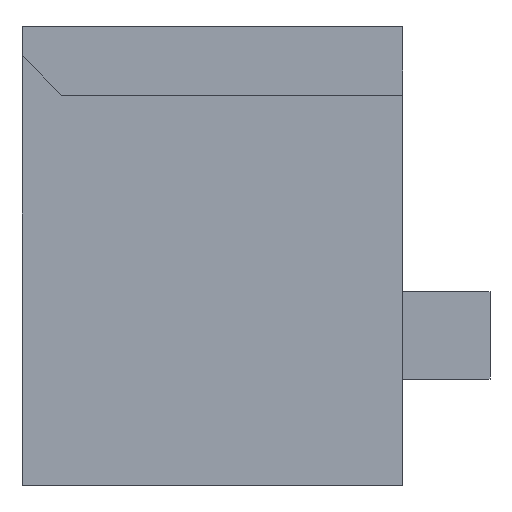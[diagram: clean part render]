
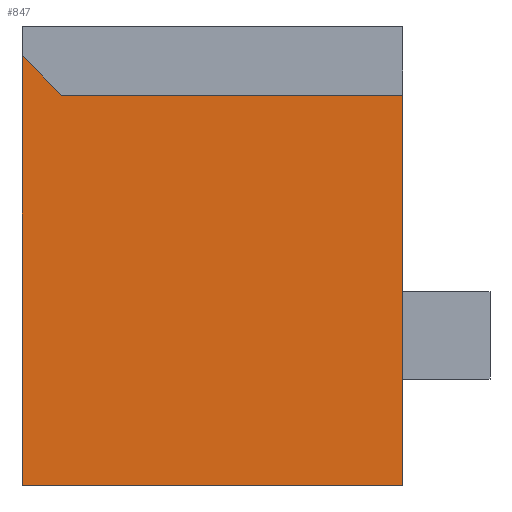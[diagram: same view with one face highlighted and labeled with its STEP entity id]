
A CAD part, front view. The second image highlights one B-rep face of the part: STEP entity #847.
In plain terms, the highlighted planar face has unit normal (0, -1, 0).
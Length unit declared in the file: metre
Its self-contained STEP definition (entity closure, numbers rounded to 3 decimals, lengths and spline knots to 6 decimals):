
#95=ORIENTED_EDGE('',*,*,#307,.F.);
#96=ORIENTED_EDGE('',*,*,#308,.T.);
#97=ORIENTED_EDGE('',*,*,#305,.F.);
#98=ORIENTED_EDGE('',*,*,#294,.F.);
#99=ORIENTED_EDGE('',*,*,#282,.T.);
#282=EDGE_CURVE('',#399,#398,#482,.T.);
#294=EDGE_CURVE('',#399,#404,#494,.T.);
#305=EDGE_CURVE('',#404,#411,#505,.T.);
#307=EDGE_CURVE('',#412,#398,#507,.T.);
#308=EDGE_CURVE('',#412,#411,#508,.F.);
#398=VERTEX_POINT('',#1212);
#399=VERTEX_POINT('',#1214);
#404=VERTEX_POINT('',#1227);
#411=VERTEX_POINT('',#1256);
#412=VERTEX_POINT('',#1260);
#482=LINE('',#1213,#602);
#494=LINE('',#1235,#614);
#505=LINE('',#1255,#625);
#507=LINE('',#1259,#627);
#508=LINE('',#1261,#628);
#602=VECTOR('',#982,1.);
#614=VECTOR('',#996,1.);
#625=VECTOR('',#1019,1.);
#627=VECTOR('',#1023,1.);
#628=VECTOR('',#1024,1.);
#706=EDGE_LOOP('',(#95,#96,#97,#98,#99));
#754=FACE_BOUND('',#706,.T.);
#802=PLANE('',#905);
#847=ADVANCED_FACE('',(#754),#802,.T.);
#905=AXIS2_PLACEMENT_3D('',#1258,#1021,#1022);
#982=DIRECTION('',(0.,0.,1.));
#996=DIRECTION('',(-1.,0.,0.));
#1019=DIRECTION('',(0.,0.,1.));
#1021=DIRECTION('',(0.,-1.,0.));
#1022=DIRECTION('',(0.,0.,-1.));
#1023=DIRECTION('',(1.,0.,0.));
#1024=DIRECTION('',(0.707,0.,-0.707));
#1212=CARTESIAN_POINT('',(-0.247925,0.017175,0.0019));
#1213=CARTESIAN_POINT('',(-0.247925,0.017175,-0.003625));
#1214=CARTESIAN_POINT('',(-0.247925,0.017175,-0.0115));
#1227=CARTESIAN_POINT('',(-0.261,0.017175,-0.0115));
#1235=CARTESIAN_POINT('',(-0.247925,0.017175,-0.0115));
#1255=CARTESIAN_POINT('',(-0.261,0.017175,-0.003625));
#1256=CARTESIAN_POINT('',(-0.261,0.017175,0.00325));
#1258=CARTESIAN_POINT('',(-0.247925,0.017175,-0.003625));
#1259=CARTESIAN_POINT('',(-0.272925,0.017175,0.0019));
#1260=CARTESIAN_POINT('',(-0.25965,0.017175,0.0019));
#1261=CARTESIAN_POINT('',(-0.2595,0.017175,0.00175));
